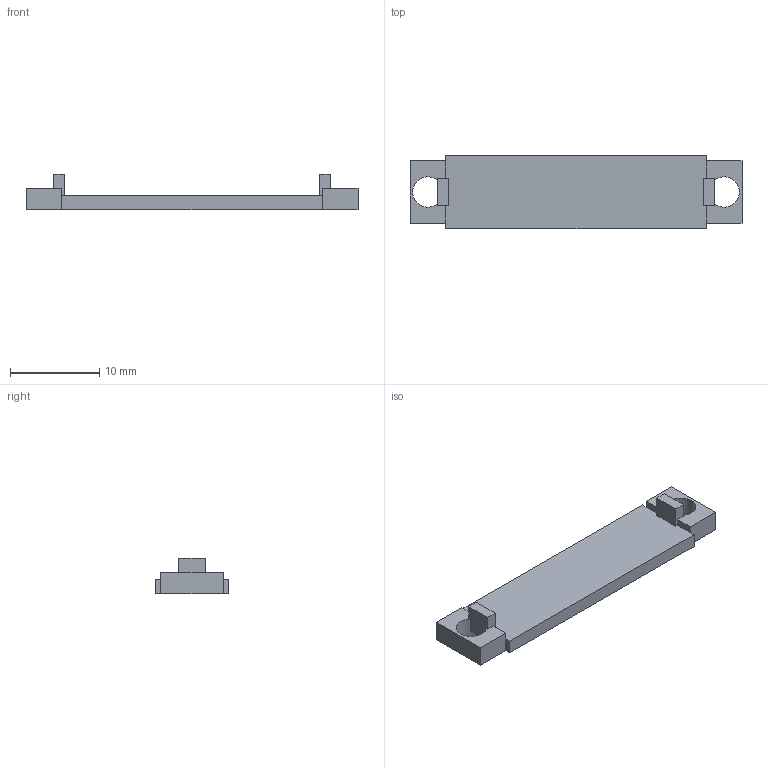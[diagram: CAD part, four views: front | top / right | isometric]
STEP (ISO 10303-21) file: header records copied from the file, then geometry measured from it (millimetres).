
FILE_DESCRIPTION(('FreeCAD Model'),'2;1');
FILE_NAME('Open CASCADE Shape Model','2026-11-20T08:25:38',('FreeCAD'),( 'FreeCAD'),'Open CASCADE STEP processor 7.8','FreeCAD','Unknown');
FILE_SCHEMA(('AUTOMOTIVE_DESIGN { 1 0 10303 214 1 1 1 1 }'));
Length unit declared in the file: millimetre
Products named in the file (1): Open CASCADE STEP translator 7.8 48
Bounding box: 37.2 x 8.2 x 4 mm (x, y, z)
Volume: 490.3 mm3; surface area: 817.3 mm2
Topology: 1 solids, 1 shells, 34 faces, 98 edges, 64 vertices
Faces by surface type: plane 32, cylinder 2
Full cylindrical faces by diameter (mm): 3.4 x2
Entity records: 1116 total; most frequent: CARTESIAN_POINT 197, ORIENTED_EDGE 196, DIRECTION 176, EDGE_CURVE 98, LINE 90, VECTOR 90, VERTEX_POINT 64, AXIS2_PLACEMENT_3D 43
